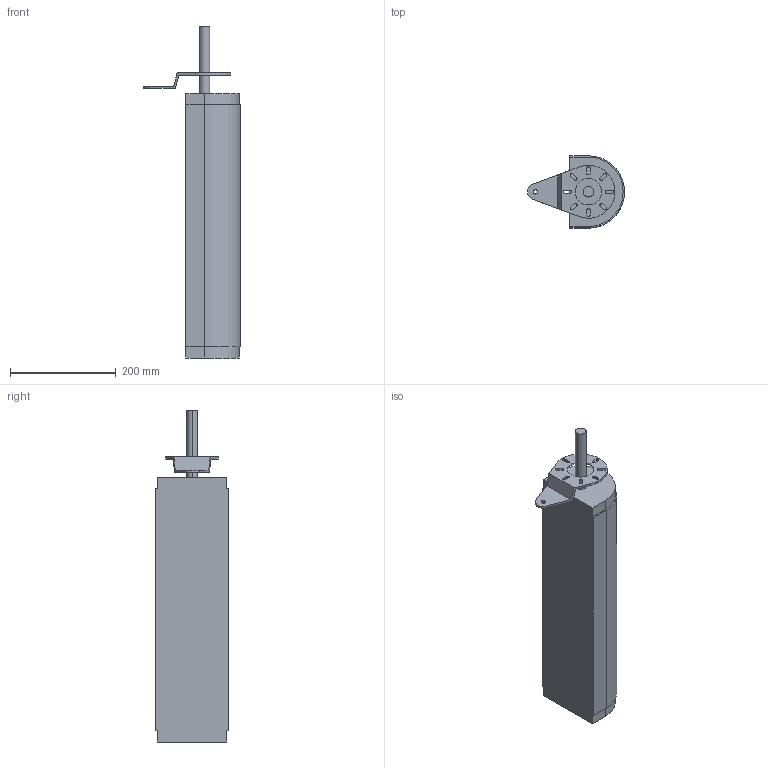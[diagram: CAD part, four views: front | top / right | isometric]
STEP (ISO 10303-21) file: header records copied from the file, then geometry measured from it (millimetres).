
FILE_DESCRIPTION (( 'STEP AP214' ), '1' );
FILE_NAME ('FS-MTC-150 500 rechts ra.STEP', '2017-12-21T09:29:09', ( '' ), ( '' ), 'SwSTEP 2.0', 'SolidWorks 2017', '' );
FILE_SCHEMA (( 'AUTOMOTIVE_DESIGN' ));
Length unit declared in the file: millimetre
Products named in the file (1): FS-MTC-150 500 rechts ra
Bounding box: 183 x 136 x 626.5 mm (x, y, z)
Volume: 6049403.5 mm3; surface area: 264159.3 mm2
Topology: 2 solids, 2 shells, 70 faces, 195 edges, 130 vertices
Faces by surface type: plane 36, cylinder 34
Entity records: 2350 total; most frequent: DIRECTION 405, CARTESIAN_POINT 396, ORIENTED_EDGE 390, EDGE_CURVE 195, AXIS2_PLACEMENT_3D 139, VERTEX_POINT 130, VECTOR 127, LINE 127
